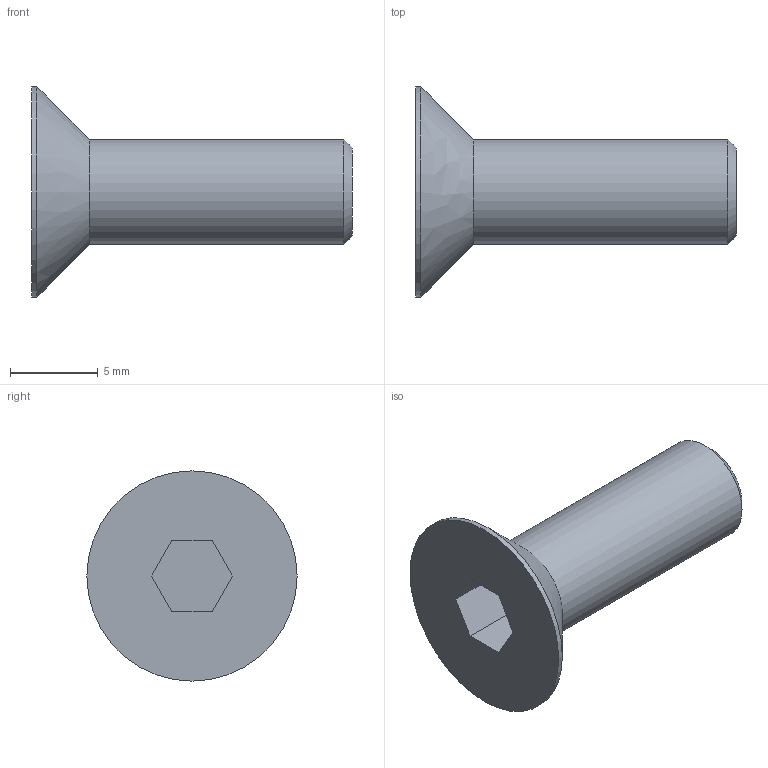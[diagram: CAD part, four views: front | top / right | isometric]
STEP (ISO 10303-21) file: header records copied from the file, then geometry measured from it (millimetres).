
FILE_DESCRIPTION( ( 'STEP AP203' ), '1' );
FILE_NAME( 'C:/FCS-06.stp', '2013-10-15T01:23:37', ( ' ' ), ( ' ' ), 'XStep 1.0', ' ', ' ' );
FILE_SCHEMA( ( 'CONFIG_CONTROL_DESIGN' ) );
Length unit declared in the file: metre
Products named in the file (1): 1
Bounding box: 18.3 x 12 x 12 mm (x, y, z)
Volume: 589.5 mm3; surface area: 619.9 mm2
Topology: 1 solids, 1 shells, 13 faces, 27 edges, 17 vertices
Faces by surface type: bspline 13
Entity records: 420 total; most frequent: CARTESIAN_POINT 155, ORIENTED_EDGE 46, DIRECTION 28, EDGE_CURVE 23, EDGE_LOOP 18, FACE_OUTER_BOUND 17, VERTEX_POINT 17, LINE 16
